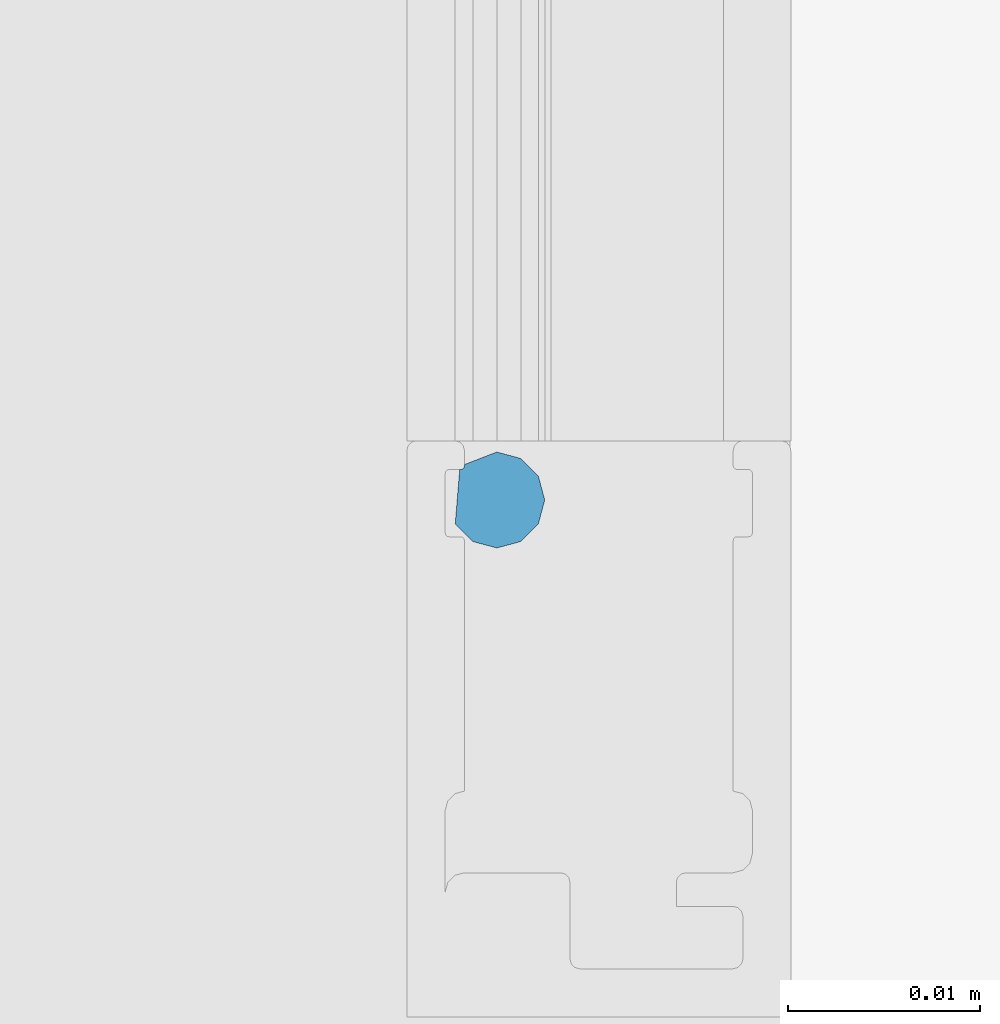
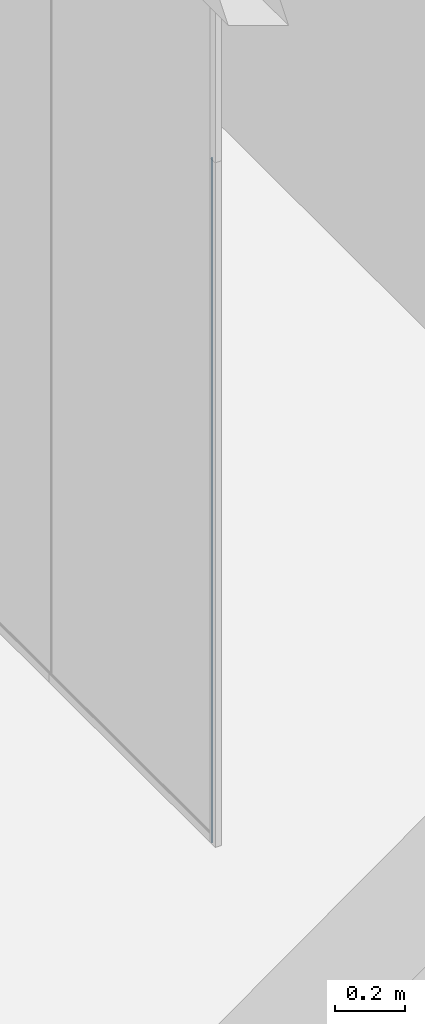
# One storey, part 51 of 387: 1 building element part, 2 elements without a shape of their own.
"""IFC2X3 building model written with IfcOpenShell, lengths in millimetres."""

import ifcopenshell
import ifcopenshell.guid

model = None  # the IFC model being written
_history = None  # IfcOwnerHistory: only IFC2X3 demands one
_inside = {}  # id of a spatial element -> (the spatial element, [elements in it])
_under = {}  # id of a project, library or spatial element -> (it, [spatial elements below it])
_declared = {}  # id of a project -> (the project, [libraries it declares])
_typed = {}  # id of a type object -> (the type object, [elements of that type])
_made_of = {}  # id of a material, layer set ... -> (it, [elements and type objects made of it])


def new_model(schema):
    """Start an empty IFC model of exactly this schema.

    Asked for "IFC4X3", IfcOpenShell would pick the latest addendum, in which some entities
    have other attributes; the version numbers below select the first issue.
    IFC2X3 requires an IfcOwnerHistory on every rooted entity: one is made here for all.
    """
    global model, _history
    if schema == "IFC4X3":
        model = ifcopenshell.file(schema_version=(4, 3, 0, 0))
    else:
        model = ifcopenshell.file(schema=schema)
    _inside.clear()
    _under.clear()
    _declared.clear()
    _typed.clear()
    _made_of.clear()
    _history = None
    if model.schema == "IFC2X3":
        org = make("IfcOrganization", Name="unknown")
        user = make(
            "IfcPersonAndOrganization",
            ThePerson=make("IfcPerson", FamilyName="unknown"),
            TheOrganization=org,
        )
        app = make(
            "IfcApplication",
            ApplicationDeveloper=org,
            Version="unknown",
            ApplicationFullName="unknown",
            ApplicationIdentifier="unknown",
        )
        _history = make(
            "IfcOwnerHistory",
            OwningUser=user,
            OwningApplication=app,
            ChangeAction="ADDED",
            CreationDate=0,
        )
    return model


def make(cls, **values):
    """One entity of the class cls with the attributes given. An attribute that is None is left unset."""
    return model.create_entity(
        cls, **{name: value for name, value in values.items() if value is not None}
    )


def entity(cls, *values):
    """Any entity or typed value of the class cls, its attributes in the order of the schema. None: left unset."""
    e = model.create_entity(cls)
    for i, value in enumerate(values):
        if value is not None:
            e[i] = value
    return e


def rooted(cls, **values):
    """An entity with a GlobalId (a new one), such as an element, a storey or a relation."""
    return make(cls, GlobalId=ifcopenshell.guid.new(), OwnerHistory=_history, **values)


def si_unit(unit_type, name, prefix=None):
    """IfcSIUnit, for example si_unit("LENGTHUNIT", "METRE", prefix="MILLI")."""
    return make("IfcSIUnit", UnitType=unit_type, Prefix=prefix, Name=name)


def converted_unit(unit_type, name, factor, base, dimensions=None, offset=None):
    """IfcConversionBasedUnit, such as the inch: factor (a typed value) times the base unit."""
    return make(
        "IfcConversionBasedUnit"
        if offset is None
        else "IfcConversionBasedUnitWithOffset",
        ConversionOffset=offset,
        Dimensions=None
        if dimensions is None
        else entity("IfcDimensionalExponents", *dimensions),
        UnitType=unit_type,
        Name=name,
        ConversionFactor=make(
            "IfcMeasureWithUnit", ValueComponent=factor, UnitComponent=base
        ),
    )


def derived_unit(unit_type, elements):
    """IfcDerivedUnit: a product of units, each with its exponent."""
    return make(
        "IfcDerivedUnit",
        Elements=[
            make("IfcDerivedUnitElement", Unit=unit, Exponent=power)
            for unit, power in elements
        ],
        UnitType=unit_type,
    )


def money_unit(currency):
    """IfcMonetaryUnit."""
    return make("IfcMonetaryUnit", Currency=currency)


def assignment(units):
    """IfcUnitAssignment: the units of a project."""
    return None if units is None else make("IfcUnitAssignment", Units=units)


def point(xyz):
    """IfcCartesianPoint."""
    return None if xyz is None else make("IfcCartesianPoint", Coordinates=xyz)


def direction(xyz):
    """IfcDirection."""
    return None if xyz is None else make("IfcDirection", DirectionRatios=xyz)


def frame(location, z_axis=None, x_axis=None):
    """IfcAxis2Placement3D, a coordinate frame: its origin and axes. An axis left out is left unset."""
    return make(
        "IfcAxis2Placement3D",
        Location=point(location),
        Axis=direction(z_axis),
        RefDirection=direction(x_axis),
    )


def origin_with_axes():
    """The frame at (0, 0, 0) with the z axis (0, 0, 1) and the x axis (1, 0, 0) written out."""
    return frame((0.0, 0.0, 0.0), z_axis=(0.0, 0.0, 1.0), x_axis=(1.0, 0.0, 0.0))


def place(relative_to, where):
    """IfcLocalPlacement: puts the frame where relative to a parent placement (None: the world)."""
    return make(
        "IfcLocalPlacement", PlacementRelTo=relative_to, RelativePlacement=where
    )


def context(
    kind, dimensions, precision=None, world=None, true_north=None, identifier=None
):
    """IfcGeometricRepresentationContext, for example the 3D "Model" context."""
    return make(
        "IfcGeometricRepresentationContext",
        ContextIdentifier=identifier,
        ContextType=kind,
        CoordinateSpaceDimension=dimensions,
        Precision=precision,
        WorldCoordinateSystem=world,
        TrueNorth=true_north,
    )


def subcontext(parent, identifier, kind, view, scale=None):
    """IfcGeometricRepresentationSubContext, for example "Body" below "Model"."""
    return make(
        "IfcGeometricRepresentationSubContext",
        ContextIdentifier=identifier,
        ContextType=kind,
        ParentContext=parent,
        TargetScale=scale,
        TargetView=view,
    )


def project(units=None, contexts=None):
    """IfcProject with its units and contexts."""
    return rooted(
        "IfcProject",
        Name="project",
        RepresentationContexts=contexts,
        UnitsInContext=assignment(units),
    )


def spatial(cls, under=None, at=None, **own):
    """A site, building, storey or space (cls), placed at a placement, below another one or the project."""
    s = rooted(cls, ObjectPlacement=at, **own)
    if under is not None:
        _under.setdefault(under.id(), (under, []))[1].append(s)
    return s


def faces_of(points, faces, orient=None, outer=None):
    """IfcFace entities. A face is a list of loops; a loop is a list of indices into points, from 0.

    orient and outer hold one flag for each loop. By default every Orientation is true, the
    first loop of a face is its IfcFaceOuterBound and the others are IfcFaceBound.
    """
    made = []
    for i, loops in enumerate(faces):
        bounds = []
        for j, loop in enumerate(loops):
            is_outer = j == 0 if outer is None else outer[i][j]
            bounds.append(
                make(
                    "IfcFaceOuterBound" if is_outer else "IfcFaceBound",
                    Bound=make("IfcPolyLoop", Polygon=[points[k] for k in loop]),
                    Orientation=True if orient is None else orient[i][j],
                )
            )
        made.append(make("IfcFace", Bounds=bounds))
    return made


def faceted_brep(points, faces, orient=None, outer=None, voids=None):
    """IfcFacetedBrep: a solid bounded by flat faces; with voids (closed shells), ...WithVoids."""
    shared = [point(p) for p in points]
    hull = make("IfcClosedShell", CfsFaces=faces_of(shared, faces, orient, outer))
    if voids is None:
        return make("IfcFacetedBrep", Outer=hull)
    return make(
        "IfcFacetedBrepWithVoids",
        Outer=hull,
        Voids=[
            make(cls, CfsFaces=faces_of(shared, fs, o, b)) for cls, fs, o, b in voids
        ],
    )


def shape(context_of_items, identifier, shape_type, items):
    """IfcShapeRepresentation: the items that make up one representation, for example the "Body"."""
    return make(
        "IfcShapeRepresentation",
        ContextOfItems=context_of_items,
        RepresentationIdentifier=identifier,
        RepresentationType=shape_type,
        Items=items,
    )


def source(mapping_origin, context_of_items, identifier, shape_type, items):
    """IfcRepresentationMap: a shape defined once, which mapped items show again and again."""
    return make(
        "IfcRepresentationMap",
        MappingOrigin=mapping_origin,
        MappedRepresentation=shape(context_of_items, identifier, shape_type, items),
    )


def transform(
    local_origin,
    x_axis=None,
    y_axis=None,
    z_axis=None,
    scale=None,
    scale2=None,
    scale3=None,
    uniform=True,
):
    """IfcCartesianTransformationOperator3D, or its non-uniform kind. x_axis, y_axis, z_axis: its Axis1, 2, 3."""
    if uniform:
        return make(
            "IfcCartesianTransformationOperator3D",
            Axis1=direction(x_axis),
            Axis2=direction(y_axis),
            LocalOrigin=point(local_origin),
            Scale=scale,
            Axis3=direction(z_axis),
        )
    return make(
        "IfcCartesianTransformationOperator3DnonUniform",
        Axis1=direction(x_axis),
        Axis2=direction(y_axis),
        LocalOrigin=point(local_origin),
        Scale=scale,
        Axis3=direction(z_axis),
        Scale2=scale2,
        Scale3=scale3,
    )


def mapped(mapping_source, mapping_target):
    """IfcMappedItem: shows the shape of a source again, moved by a transform."""
    return make(
        "IfcMappedItem", MappingSource=mapping_source, MappingTarget=mapping_target
    )


def material(Name=None, Category=None):
    """IfcMaterial."""
    return make("IfcMaterial", Name=Name, Category=Category)


def made_of(thing, what):
    """Note that an element or type object is made of a material, layer set ...; save() writes the relation."""
    if what is not None:
        _made_of.setdefault(what.id(), (what, []))[1].append(thing)
    return thing


def type_object(cls, material=None, **own):
    """A type object (cls), such as IfcWallType, which elements share."""
    return made_of(rooted(cls, **own), material)


def element(
    cls,
    number,
    at=None,
    inside=None,
    cuts=None,
    type_object=None,
    material=None,
    context=None,
    identifier="Body",
    shape_type=None,
    held_by="IfcProductDefinitionShape",
    body=None,
    shapes=None,
    **own,
):
    """One element of the class cls, such as IfcWall. Its Tag is "e" and its number.

    at: its placement. inside: the storey or other place that contains it. cuts: it is an
    opening in that element (IfcRelVoidsElement). A single representation is given by context,
    identifier, shape_type and body (its items); several are given by shapes. held_by: the class
    of the entity that holds the representations. save() writes the other relations.
    """
    e = rooted(cls, Tag="e%d" % number, ObjectPlacement=at, **own)
    if body is not None:
        shapes = [shape(context, identifier, shape_type, body)]
    if shapes is not None:
        e.Representation = make(held_by, Representations=shapes)
    if inside is not None:
        _inside.setdefault(inside.id(), (inside, []))[1].append(e)
    if cuts is not None:
        rooted(
            "IfcRelVoidsElement", RelatingBuildingElement=cuts, RelatedOpeningElement=e
        )
    if type_object is not None:
        _typed.setdefault(type_object.id(), (type_object, []))[1].append(e)
    return made_of(e, material)


def aggregate(whole, parts):
    """IfcRelAggregates: a whole, such as a stair, and the parts it consists of."""
    return rooted("IfcRelAggregates", RelatingObject=whole, RelatedObjects=parts)


def save(model, path):
    """Write the relations noted so far, then the file.

    IfcRelAggregates (storeys below a building ...), IfcRelContainedInSpatialStructure (elements
    in a storey), IfcRelDefinesByType, IfcRelAssociatesMaterial and IfcRelDeclares: one each for
    every whole, place, type object, material and project.
    """
    for whole, parts in _under.values():
        aggregate(whole, parts)
    for where, things in _inside.values():
        rooted(
            "IfcRelContainedInSpatialStructure",
            RelatedElements=things,
            RelatingStructure=where,
        )
    for kind, things in _typed.values():
        rooted("IfcRelDefinesByType", RelatedObjects=things, RelatingType=kind)
    for what, things in _made_of.values():
        rooted("IfcRelAssociatesMaterial", RelatedObjects=things, RelatingMaterial=what)
    for by, libraries in _declared.values():
        rooted("IfcRelDeclares", RelatingContext=by, RelatedDefinitions=libraries)
    model.write(path)


model = new_model("IFC2X3")

# Units and contexts
model_context = context("Model", 3, precision=0.01, world=origin_with_axes(), true_north=direction((0.0, 1.0)))
body_context = subcontext(model_context, "Body", "Model", "MODEL_VIEW")
ifc_project = project(units=[si_unit("LENGTHUNIT", "METRE", prefix="MILLI"), si_unit("AREAUNIT", "SQUARE_METRE"), si_unit("VOLUMEUNIT", "CUBIC_METRE"), converted_unit("PLANEANGLEUNIT", "DEGREE", entity("IfcPlaneAngleMeasure", 0.0174532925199), si_unit("PLANEANGLEUNIT", "RADIAN"), dimensions=[0, 0, 0, 0, 0, 0, 0]), si_unit("SOLIDANGLEUNIT", "STERADIAN"), money_unit("EUR"), converted_unit("TIMEUNIT", "Year", entity("IfcTimeMeasure", 31556926.0), si_unit("TIMEUNIT", "SECOND"), dimensions=[0, 0, 1, 0, 0, 0, 0]), si_unit("MASSUNIT", "GRAM", prefix="KILO"), si_unit("THERMODYNAMICTEMPERATUREUNIT", "DEGREE_CELSIUS"), si_unit("LUMINOUSINTENSITYUNIT", "LUMEN"), si_unit("ENERGYUNIT", "JOULE", prefix="MEGA"), derived_unit("THERMALCONDUCTANCEUNIT", [(si_unit("POWERUNIT", "WATT"), 1), (si_unit("LENGTHUNIT", "METRE"), -1), (si_unit("THERMODYNAMICTEMPERATUREUNIT", "KELVIN"), -1)]), derived_unit("SPECIFICHEATCAPACITYUNIT", [(si_unit("ENERGYUNIT", "JOULE"), 1), (si_unit("MASSUNIT", "GRAM", prefix="KILO"), -1), (si_unit("THERMODYNAMICTEMPERATUREUNIT", "KELVIN"), -1)]), derived_unit("MASSDENSITYUNIT", [(si_unit("MASSUNIT", "GRAM", prefix="KILO"), 1), (si_unit("VOLUMEUNIT", "CUBIC_METRE"), -1)])], contexts=[model_context])

# Site, building, storey
site_placement = place(None, origin_with_axes())
site = spatial("IfcSite", under=ifc_project, at=site_placement, Name="Puškini 31, Narva", CompositionType="ELEMENT")
building_placement = place(site_placement, origin_with_axes())
building = spatial("IfcBuilding", under=site, at=building_placement, Name="Narva Riigigümnaasium", CompositionType="ELEMENT")
storey_placement = place(building_placement, frame((0.0, 0.0, 2640.0), z_axis=(0.0, 0.0, 1.0), x_axis=(1.0, 0.0, 0.0)))
storey = spatial("IfcBuildingStorey", under=building, at=storey_placement, Name="2.korrus +2.64", CompositionType="ELEMENT", Elevation=2640.0)

# Curtain wall, member, building element part
curtain_wall_type = type_object("IfcCurtainWallType", Name="Curtain Wall Type", PredefinedType="NOTDEFINED")
curtain_wall_placement = place(storey_placement, frame((28389.9972784, 170114.499914, -5.2224053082e-05), z_axis=(0.0, 0.0, 1.0), x_axis=(1.0, 0.0, 0.0)))
curtain_wall = element("IfcCurtainWall", 1, at=curtain_wall_placement, inside=storey, type_object=curtain_wall_type, Name="G-SKLF-15.2")
member_type = type_object("IfcMemberType", Name="Boundary Frame 30 x 10", PredefinedType="MULLION")
member_placement = place(curtain_wall_placement, frame((-7.84794451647e-09, -294.500035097, 2400.00005222), z_axis=(0.0, 0.0, -1.0), x_axis=(0.0, 1.0, 0.0)))
member = element("IfcMember", 2, at=member_placement, type_object=member_type, Name="G-SKLF-93-raam", ObjectType="MULLION")
aggregate(curtain_wall, [member])
ifc_material = material(Name="Membraan - Veekindel")
shared_shape = source(origin_with_axes(), body_context, "Body", "Brep", [
    faceted_brep([(-28.5, 7.24760028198, -4.10349964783e-07), (-28.5, 7.24760028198, 2400.00005222), (-25.6641727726, 7.48000965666, 2400.00005222), (-25.6641727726, 7.48000965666, -4.10349964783e-07), (-28.5, 7.19999999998, -4.10349964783e-07), (-28.5, 7.19999999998, 2400.00005222), (-28.5267949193, 7.09999999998, 2400.00005222), (-28.6, 7.02679491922, 2400.00005222), (-28.7, 6.99999999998, 2400.00005222), (-28.7609519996, 6.99999999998, 2400.00005222), (-29.4141727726, 5.31494614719, 2400.00005222), (-29.079236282, 4.06494614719, 2400.00005222), (-28.1641727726, 3.14988263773, 2400.00005222), (-26.9141727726, 2.81494614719, 2400.00005222), (-25.6641727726, 3.14988263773, 2400.00005222), (-24.7491092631, 4.06494614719, 2400.00005222), (-24.4141727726, 5.31494614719, 2400.00005222), (-24.7491092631, 6.56494614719, 2400.00005222), (-24.7491092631, 6.56494614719, -4.10349964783e-07), (-24.4141727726, 5.31494614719, -4.10349964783e-07), (-24.7491092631, 4.06494614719, -4.10349964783e-07), (-25.6641727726, 3.14988263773, -4.10349964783e-07), (-26.9141727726, 2.81494614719, -4.10349964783e-07), (-28.1641727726, 3.14988263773, -4.10349964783e-07), (-29.079236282, 4.06494614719, -4.10349964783e-07), (-29.4141727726, 5.31494614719, -4.10349964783e-07), (-28.7609519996, 6.99999999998, -4.10349964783e-07), (-28.7, 6.99999999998, -4.10349964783e-07), (-28.6, 7.02679491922, -4.10349964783e-07), (-28.5267949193, 7.09999999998, -4.10349964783e-07)], [[[0, 1, 2, 3]], [[4, 5, 1, 0]], [[1, 5, 6, 7, 8, 9, 10, 11, 12, 13, 14, 15, 16, 17, 2]], [[3, 2, 17, 18]], [[0, 3, 18, 19, 20, 21, 22, 23, 24, 25, 26, 27, 28, 29, 4]], [[29, 6, 5, 4]], [[28, 7, 6, 29]], [[27, 8, 7, 28]], [[26, 9, 8, 27]], [[25, 10, 9, 26]], [[24, 11, 10, 25]], [[23, 12, 11, 24]], [[22, 13, 12, 23]], [[21, 14, 13, 22]], [[20, 15, 14, 21]], [[19, 16, 15, 20]], [[18, 17, 16, 19]]]),
])
building_element_part_placement = place(member_placement, origin_with_axes())
building_element_part = element("IfcBuildingElementPart", 3, at=building_element_part_placement, material=ifc_material, Name="Membraan - Veekindel", context=body_context, shape_type="MappedRepresentation", body=[
    mapped(shared_shape, transform((0.0, 0.0, 0.0), x_axis=(-1.0, 0.0, 0.0), y_axis=(0.0, -1.0, 0.0), z_axis=(0.0, 0.0, 1.0))),
])
aggregate(member, [building_element_part])

save(model, "model.ifc")
